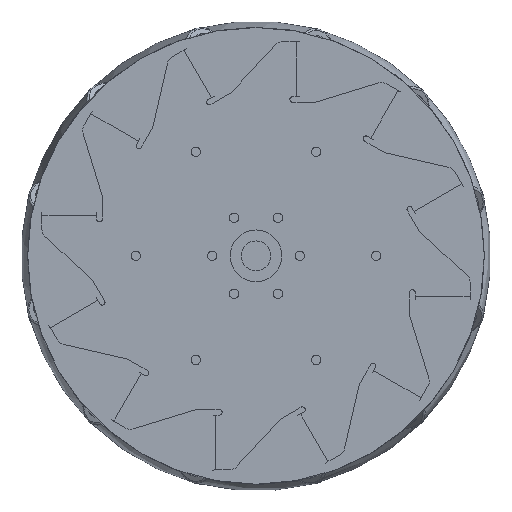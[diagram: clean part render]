
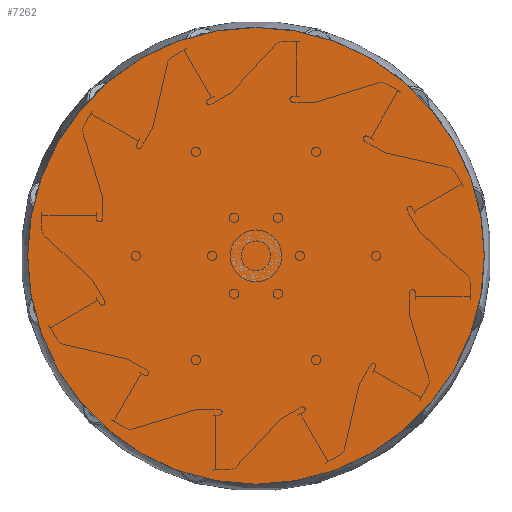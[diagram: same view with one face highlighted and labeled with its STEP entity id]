
A CAD part, top view. The second image highlights one B-rep face of the part: STEP entity #7262.
In plain terms, the highlighted planar face has unit normal (0, 0, 1).
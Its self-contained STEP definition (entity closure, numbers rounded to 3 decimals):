
#243 = CYLINDRICAL_SURFACE('',#244,123.5);
#244 = AXIS2_PLACEMENT_3D('',#245,#246,#247);
#245 = CARTESIAN_POINT('',(0.,0.,-47.5));
#246 = DIRECTION('',(0.,0.,1.));
#247 = DIRECTION('',(1.,0.,-0.));
#270 = CYLINDRICAL_SURFACE('',#271,123.5);
#271 = AXIS2_PLACEMENT_3D('',#272,#273,#274);
#272 = CARTESIAN_POINT('',(0.,0.,-47.5));
#273 = DIRECTION('',(0.,0.,1.));
#274 = DIRECTION('',(1.,0.,-0.));
#421 = VERTEX_POINT('',#422);
#422 = CARTESIAN_POINT('',(-123.5,0.,47.5));
#443 = EDGE_CURVE('',#444,#421,#446,.T.);
#444 = VERTEX_POINT('',#445);
#445 = CARTESIAN_POINT('',(123.5,0.,47.5));
#446 = SURFACE_CURVE('',#447,(#452,#459),.PCURVE_S1.);
#447 = CIRCLE('',#448,123.5);
#448 = AXIS2_PLACEMENT_3D('',#449,#450,#451);
#449 = CARTESIAN_POINT('',(0.,0.,47.5));
#450 = DIRECTION('',(0.,0.,1.));
#451 = DIRECTION('',(1.,0.,-0.));
#452 = PCURVE('',#243,#453);
#453 = DEFINITIONAL_REPRESENTATION('',(#454),#458);
#454 = LINE('',#455,#456);
#455 = CARTESIAN_POINT('',(0.,95.));
#456 = VECTOR('',#457,1.);
#457 = DIRECTION('',(1.,0.));
#458 = ( GEOMETRIC_REPRESENTATION_CONTEXT(2) 
PARAMETRIC_REPRESENTATION_CONTEXT() REPRESENTATION_CONTEXT('2D SPACE',''
  ) );
#459 = PCURVE('',#460,#465);
#460 = PLANE('',#461);
#461 = AXIS2_PLACEMENT_3D('',#462,#463,#464);
#462 = CARTESIAN_POINT('',(0.,0.,47.5));
#463 = DIRECTION('',(0.,0.,1.));
#464 = DIRECTION('',(1.,0.,-0.));
#465 = DEFINITIONAL_REPRESENTATION('',(#466),#470);
#466 = CIRCLE('',#467,123.5);
#467 = AXIS2_PLACEMENT_2D('',#468,#469);
#468 = CARTESIAN_POINT('',(0.,0.));
#469 = DIRECTION('',(1.,0.));
#470 = ( GEOMETRIC_REPRESENTATION_CONTEXT(2) 
PARAMETRIC_REPRESENTATION_CONTEXT() REPRESENTATION_CONTEXT('2D SPACE',''
  ) );
#3673 = EDGE_CURVE('',#421,#444,#3674,.T.);
#3674 = SURFACE_CURVE('',#3675,(#3680,#3687),.PCURVE_S1.);
#3675 = CIRCLE('',#3676,123.5);
#3676 = AXIS2_PLACEMENT_3D('',#3677,#3678,#3679);
#3677 = CARTESIAN_POINT('',(0.,0.,47.5));
#3678 = DIRECTION('',(0.,0.,1.));
#3679 = DIRECTION('',(-1.,0.,0.));
#3680 = PCURVE('',#270,#3681);
#3681 = DEFINITIONAL_REPRESENTATION('',(#3682),#3686);
#3682 = LINE('',#3683,#3684);
#3683 = CARTESIAN_POINT('',(3.142,95.));
#3684 = VECTOR('',#3685,1.);
#3685 = DIRECTION('',(1.,0.));
#3686 = ( GEOMETRIC_REPRESENTATION_CONTEXT(2) 
PARAMETRIC_REPRESENTATION_CONTEXT() REPRESENTATION_CONTEXT('2D SPACE',''
  ) );
#3687 = PCURVE('',#460,#3688);
#3688 = DEFINITIONAL_REPRESENTATION('',(#3689),#3693);
#3689 = CIRCLE('',#3690,123.5);
#3690 = AXIS2_PLACEMENT_2D('',#3691,#3692);
#3691 = CARTESIAN_POINT('',(0.,0.));
#3692 = DIRECTION('',(-1.,0.));
#3693 = ( GEOMETRIC_REPRESENTATION_CONTEXT(2) 
PARAMETRIC_REPRESENTATION_CONTEXT() REPRESENTATION_CONTEXT('2D SPACE',''
  ) );
#7262 = ADVANCED_FACE('',(#7263),#460,.T.);
#7263 = FACE_BOUND('',#7264,.F.);
#7264 = EDGE_LOOP('',(#7265,#7266));
#7265 = ORIENTED_EDGE('',*,*,#443,.F.);
#7266 = ORIENTED_EDGE('',*,*,#3673,.F.);
